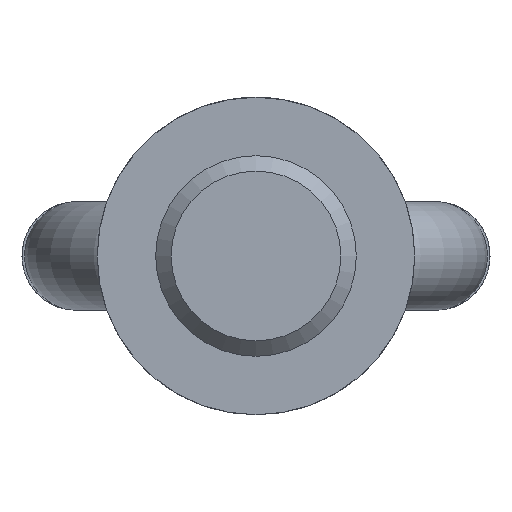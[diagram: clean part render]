
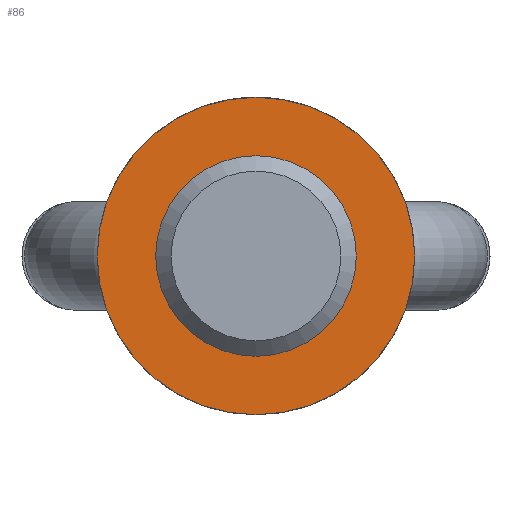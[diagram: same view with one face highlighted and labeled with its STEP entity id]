
A CAD part, front view. The second image highlights one B-rep face of the part: STEP entity #86.
In plain terms, the highlighted planar face has unit normal (0, -1, 0).
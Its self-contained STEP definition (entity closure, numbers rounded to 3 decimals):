
#86 = ADVANCED_FACE( '', ( #132, #133 ), #134, .F. );
#132 = FACE_BOUND( '', #200, .T. );
#133 = FACE_OUTER_BOUND( '', #201, .T. );
#134 = PLANE( '', #202 );
#200 = EDGE_LOOP( '', ( #307 ) );
#201 = EDGE_LOOP( '', ( #308 ) );
#202 = AXIS2_PLACEMENT_3D( '', #309, #310, #311 );
#307 = ORIENTED_EDGE( '', *, *, #413, .T. );
#308 = ORIENTED_EDGE( '', *, *, #427, .T. );
#309 = CARTESIAN_POINT( '', ( 19., 0., 0. ) );
#310 = DIRECTION( '', ( 0., 1., 0. ) );
#311 = DIRECTION( '', ( 0., 0., 1. ) );
#413 = EDGE_CURVE( '', #471, #471, #472, .T. );
#427 = EDGE_CURVE( '', #496, #496, #497, .T. );
#471 = VERTEX_POINT( '', #877 );
#472 = CIRCLE( '', #878, 12. );
#496 = VERTEX_POINT( '', #916 );
#497 = CIRCLE( '', #917, 19. );
#877 = CARTESIAN_POINT( '', ( 0., 0., 12. ) );
#878 = AXIS2_PLACEMENT_3D( '', #1013, #1014, #1015 );
#916 = CARTESIAN_POINT( '', ( 0., 0., -19. ) );
#917 = AXIS2_PLACEMENT_3D( '', #1036, #1037, #1038 );
#1013 = CARTESIAN_POINT( '', ( 0., 0., 0. ) );
#1014 = DIRECTION( '', ( 0., 1., 0. ) );
#1015 = DIRECTION( '', ( 0., 0., 1. ) );
#1036 = CARTESIAN_POINT( '', ( 0., 0., 0. ) );
#1037 = DIRECTION( '', ( 0., -1., 0. ) );
#1038 = DIRECTION( '', ( 0., 0., -1. ) );
